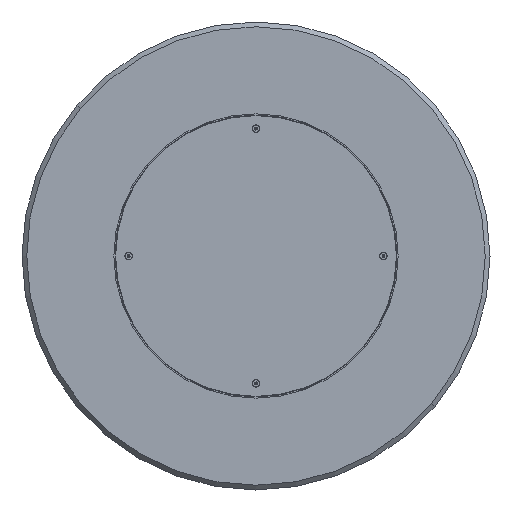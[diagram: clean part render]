
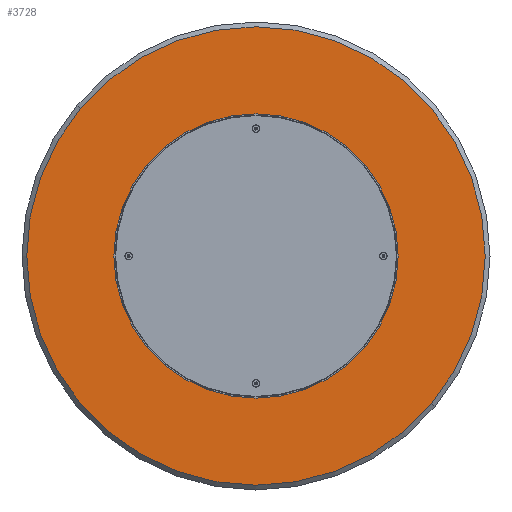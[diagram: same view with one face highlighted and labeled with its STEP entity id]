
A CAD part, front view. The second image highlights one B-rep face of the part: STEP entity #3728.
In plain terms, the highlighted planar face has unit normal (0, -1, 0).
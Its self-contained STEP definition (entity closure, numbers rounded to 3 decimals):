
#280 = CIRCLE ( 'NONE', #2208, 387. ) ;
#306 = DIRECTION ( 'NONE',  ( 0., 0., -1. ) ) ;
#595 = ORIENTED_EDGE ( 'NONE', *, *, #3334, .T. ) ;
#627 = DIRECTION ( 'NONE',  ( 0., 0., -1. ) ) ;
#653 = FACE_OUTER_BOUND ( 'NONE', #3653, .T. ) ;
#682 = DIRECTION ( 'NONE',  ( 0., -1., 0. ) ) ;
#718 = CIRCLE ( 'NONE', #3517, 387. ) ;
#1010 = DIRECTION ( 'NONE',  ( 0., -1., 0. ) ) ;
#1238 = CARTESIAN_POINT ( 'NONE',  ( 0., 0., 0. ) ) ;
#1304 = AXIS2_PLACEMENT_3D ( 'NONE', #2105, #1010, #627 ) ;
#1398 = VERTEX_POINT ( 'NONE', #4670 ) ;
#1598 = ORIENTED_EDGE ( 'NONE', *, *, #1950, .T. ) ;
#1681 = CARTESIAN_POINT ( 'NONE',  ( 0., 0., 387. ) ) ;
#1950 = EDGE_CURVE ( 'NONE', #1398, #4237, #280, .T. ) ;
#2105 = CARTESIAN_POINT ( 'NONE',  ( 0., 0., 0. ) ) ;
#2208 = AXIS2_PLACEMENT_3D ( 'NONE', #2590, #682, #306 ) ;
#2590 = CARTESIAN_POINT ( 'NONE',  ( 0., 0., 0. ) ) ;
#3334 = EDGE_CURVE ( 'NONE', #4237, #1398, #718, .T. ) ;
#3517 = AXIS2_PLACEMENT_3D ( 'NONE', #1238, #4362, #3957 ) ;
#3653 = EDGE_LOOP ( 'NONE', ( #595, #1598 ) ) ;
#3728 = ADVANCED_FACE ( 'NONE', ( #653 ), #4026, .T. ) ;
#3957 = DIRECTION ( 'NONE',  ( 0., 0., -1. ) ) ;
#4026 = PLANE ( 'NONE',  #1304 ) ;
#4237 = VERTEX_POINT ( 'NONE', #1681 ) ;
#4362 = DIRECTION ( 'NONE',  ( 0., -1., 0. ) ) ;
#4670 = CARTESIAN_POINT ( 'NONE',  ( 0., 0., -387. ) ) ;
